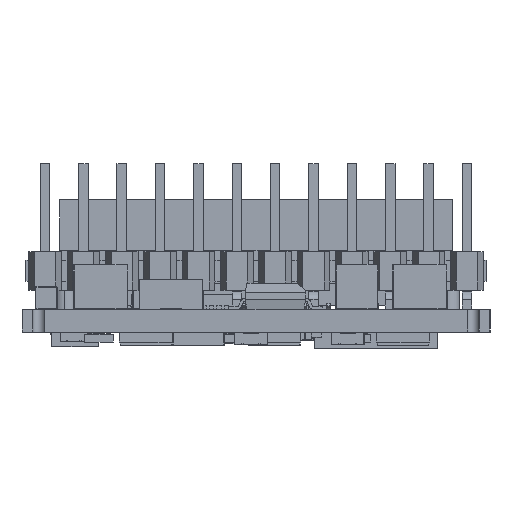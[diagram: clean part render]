
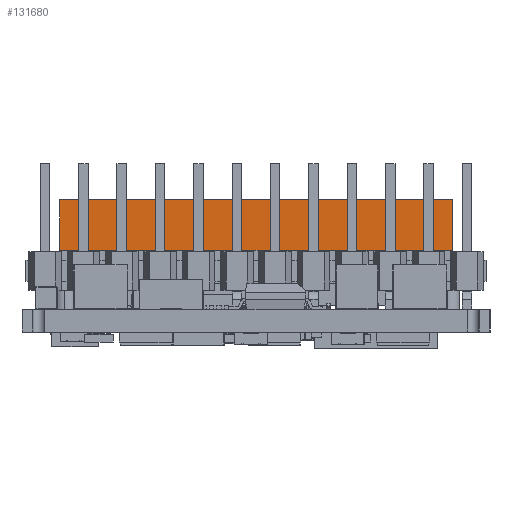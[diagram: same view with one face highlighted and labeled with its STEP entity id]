
A CAD part, left-side view. The second image highlights one B-rep face of the part: STEP entity #131680.
In plain terms, the highlighted planar face has unit normal (-1, 0, 0).
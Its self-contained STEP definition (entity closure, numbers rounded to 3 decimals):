
#40889=DIRECTION('',(0.,0.,-1.));
#40890=VECTOR('',#40889,3.35);
#40891=CARTESIAN_POINT('',(161.05,102.5,8.763));
#40892=LINE('',#40891,#40890);
#40945=DIRECTION('',(0.,0.,1.));
#40946=VECTOR('',#40945,3.35);
#40947=CARTESIAN_POINT('',(161.05,128.5,5.413));
#40948=LINE('',#40947,#40946);
#41036=DIRECTION('',(0.,-1.,0.));
#41037=VECTOR('',#41036,26.);
#41038=CARTESIAN_POINT('',(161.05,128.5,8.763));
#41039=LINE('',#41038,#41037);
#42184=DIRECTION('',(0.,1.,0.));
#42185=VECTOR('',#42184,26.);
#42186=CARTESIAN_POINT('',(161.05,102.5,5.413));
#42187=LINE('',#42186,#42185);
#91366=CARTESIAN_POINT('',(161.05,128.5,8.763));
#91367=VERTEX_POINT('',#91366);
#91368=CARTESIAN_POINT('',(161.05,102.5,8.763));
#91369=VERTEX_POINT('',#91368);
#91383=CARTESIAN_POINT('',(161.05,102.5,5.413));
#91385=VERTEX_POINT('',#91383);
#91386=CARTESIAN_POINT('',(161.05,128.5,5.413));
#91387=VERTEX_POINT('',#91386);
#131668=CARTESIAN_POINT('',(161.05,128.5,8.763));
#131669=DIRECTION('',(1.,0.,0.));
#131670=DIRECTION('',(0.,1.,0.));
#131671=AXIS2_PLACEMENT_3D('',#131668,#131669,#131670);
#131672=PLANE('',#131671);
#131674=ORIENTED_EDGE('',*,*,#131673,.T.);
#131675=ORIENTED_EDGE('',*,*,#131166,.T.);
#131676=ORIENTED_EDGE('',*,*,#131244,.T.);
#131677=ORIENTED_EDGE('',*,*,#131125,.T.);
#131678=EDGE_LOOP('',(#131674,#131675,#131676,#131677));
#131679=FACE_OUTER_BOUND('',#131678,.F.);
#131680=ADVANCED_FACE('',(#131679),#131672,.F.);
#131125=EDGE_CURVE('',#91369,#91385,#40892,.T.);
#131166=EDGE_CURVE('',#91387,#91367,#40948,.T.);
#131244=EDGE_CURVE('',#91367,#91369,#41039,.T.);
#131673=EDGE_CURVE('',#91385,#91387,#42187,.T.);
